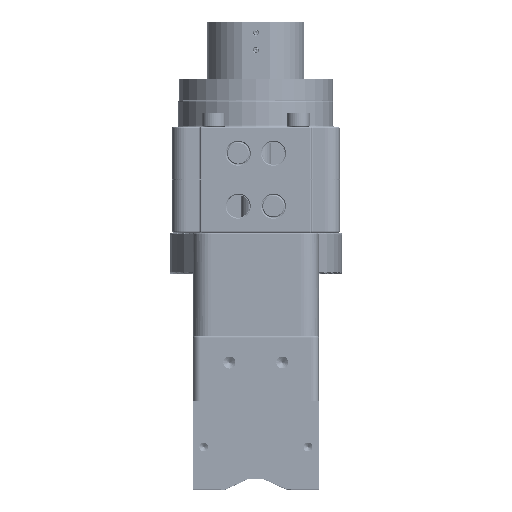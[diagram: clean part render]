
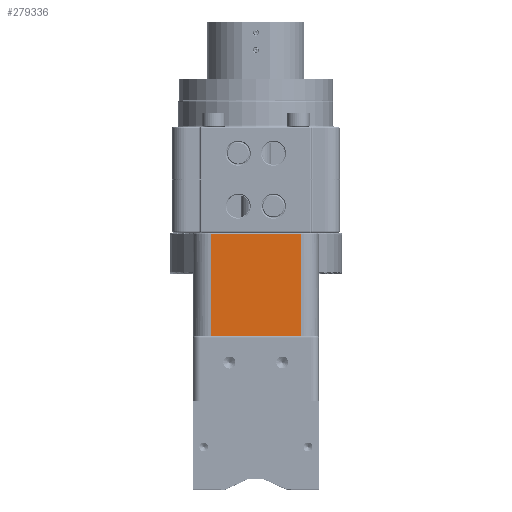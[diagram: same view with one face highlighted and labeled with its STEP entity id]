
A CAD part, top view. The second image highlights one B-rep face of the part: STEP entity #279336.
In plain terms, the highlighted planar face has unit normal (0, 0, 1).
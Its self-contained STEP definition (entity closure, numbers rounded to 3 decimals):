
#2626 = EDGE_CURVE ( 'NONE', #18637, #271783, #183496, .T. ) ;
#17327 = CARTESIAN_POINT ( 'NONE',  ( 17.217, 96.374, 13.776 ) ) ;
#18637 = VERTEX_POINT ( 'NONE', #255268 ) ;
#21304 = LINE ( 'NONE', #207623, #231212 ) ;
#23092 = ORIENTED_EDGE ( 'NONE', *, *, #131950, .T. ) ;
#38942 = VECTOR ( 'NONE', #140677, 1000. ) ;
#54979 = EDGE_CURVE ( 'NONE', #190821, #18637, #90060, .T. ) ;
#64599 = VECTOR ( 'NONE', #163314, 1000. ) ;
#68124 = AXIS2_PLACEMENT_3D ( 'NONE', #150562, #245201, #127638 ) ;
#71928 = CARTESIAN_POINT ( 'NONE',  ( -33.903, 97.374, 13.776 ) ) ;
#90060 = LINE ( 'NONE', #302246, #64599 ) ;
#93769 = EDGE_CURVE ( 'NONE', #271783, #211318, #264660, .T. ) ;
#110106 = EDGE_LOOP ( 'NONE', ( #210931, #144096, #23092, #223090 ) ) ;
#110736 = CARTESIAN_POINT ( 'NONE',  ( 17.217, 38.554, 13.776 ) ) ;
#127638 = DIRECTION ( 'NONE',  ( 1., 0., 0. ) ) ;
#131950 = EDGE_CURVE ( 'NONE', #211318, #190821, #21304, .T. ) ;
#140677 = DIRECTION ( 'NONE',  ( 0., -1., 0. ) ) ;
#144096 = ORIENTED_EDGE ( 'NONE', *, *, #93769, .T. ) ;
#147548 = FACE_OUTER_BOUND ( 'NONE', #110106, .T. ) ;
#150562 = CARTESIAN_POINT ( 'NONE',  ( 161.243, 97.374, 13.776 ) ) ;
#163314 = DIRECTION ( 'NONE',  ( -1., 0., 0. ) ) ;
#177555 = DIRECTION ( 'NONE',  ( 1., 0., 0. ) ) ;
#183496 = LINE ( 'NONE', #71928, #38942 ) ;
#186236 = DIRECTION ( 'NONE',  ( 0., 1., 0. ) ) ;
#190821 = VERTEX_POINT ( 'NONE', #17327 ) ;
#200456 = CARTESIAN_POINT ( 'NONE',  ( 23.217, 38.554, 13.776 ) ) ;
#207623 = CARTESIAN_POINT ( 'NONE',  ( 17.217, 97.374, 13.776 ) ) ;
#210931 = ORIENTED_EDGE ( 'NONE', *, *, #2626, .T. ) ;
#211318 = VERTEX_POINT ( 'NONE', #110736 ) ;
#223090 = ORIENTED_EDGE ( 'NONE', *, *, #54979, .T. ) ;
#231212 = VECTOR ( 'NONE', #186236, 1000. ) ;
#245201 = DIRECTION ( 'NONE',  ( 0., 0., -1. ) ) ;
#255268 = CARTESIAN_POINT ( 'NONE',  ( -33.903, 96.374, 13.776 ) ) ;
#264660 = LINE ( 'NONE', #200456, #287895 ) ;
#268096 = PLANE ( 'NONE',  #68124 ) ;
#271783 = VERTEX_POINT ( 'NONE', #276216 ) ;
#276216 = CARTESIAN_POINT ( 'NONE',  ( -33.903, 38.554, 13.776 ) ) ;
#279336 = ADVANCED_FACE ( 'NONE', ( #147548 ), #268096, .F. ) ;
#287895 = VECTOR ( 'NONE', #177555, 1000. ) ;
#302246 = CARTESIAN_POINT ( 'NONE',  ( -33.903, 96.374, 13.776 ) ) ;
